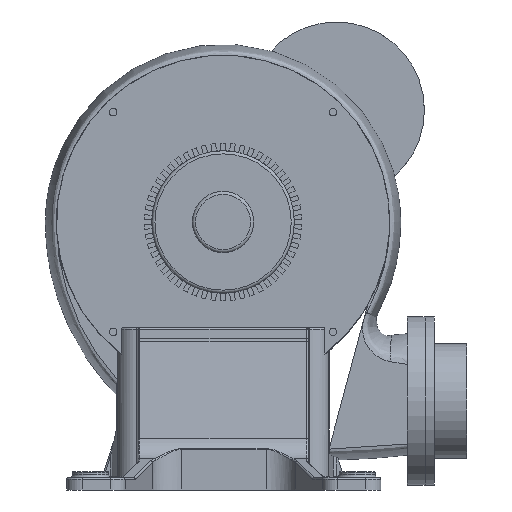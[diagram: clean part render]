
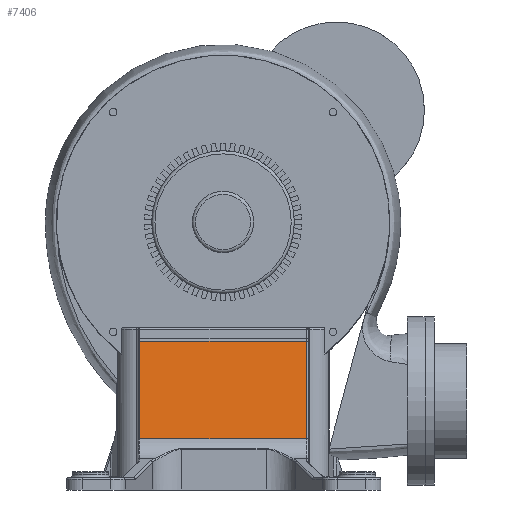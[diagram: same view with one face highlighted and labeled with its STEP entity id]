
A CAD part, left-side view. The second image highlights one B-rep face of the part: STEP entity #7406.
In plain terms, the highlighted planar face has unit normal (-0.99, 0, 0.138).
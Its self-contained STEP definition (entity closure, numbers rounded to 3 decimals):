
#708=LINE('',#16049,#1359);
#710=LINE('',#16073,#1361);
#711=LINE('',#16075,#1362);
#712=LINE('',#16077,#1363);
#1359=VECTOR('',#9819,1000.);
#1361=VECTOR('',#9825,1000.);
#1362=VECTOR('',#9826,1000.);
#1363=VECTOR('',#9827,1000.);
#3146=ORIENTED_EDGE('',*,*,#4560,.F.);
#3147=ORIENTED_EDGE('',*,*,#4565,.T.);
#3148=ORIENTED_EDGE('',*,*,#4566,.T.);
#3149=ORIENTED_EDGE('',*,*,#4567,.T.);
#4560=EDGE_CURVE('',#5400,#5401,#708,.T.);
#4565=EDGE_CURVE('',#5400,#5404,#710,.F.);
#4566=EDGE_CURVE('',#5404,#5405,#711,.T.);
#4567=EDGE_CURVE('',#5405,#5401,#712,.T.);
#5400=VERTEX_POINT('',#16048);
#5401=VERTEX_POINT('',#16050);
#5404=VERTEX_POINT('',#16074);
#5405=VERTEX_POINT('',#16076);
#6192=EDGE_LOOP('',(#3146,#3147,#3148,#3149));
#6694=FACE_BOUND('',#6192,.T.);
#7094=PLANE('',#8030);
#7406=ADVANCED_FACE('',(#6694),#7094,.T.);
#8030=AXIS2_PLACEMENT_3D('',#16072,#9823,#9824);
#9819=DIRECTION('',(0.,1.,0.));
#9823=DIRECTION('',(-0.99,0.,0.138));
#9824=DIRECTION('',(0.138,0.,0.99));
#9825=DIRECTION('',(-0.138,0.,-0.99));
#9826=DIRECTION('',(0.,1.,0.));
#9827=DIRECTION('',(-0.138,0.,-0.99));
#16048=CARTESIAN_POINT('',(-78.765,-54.5,-141.503));
#16049=CARTESIAN_POINT('',(-78.765,-87.5,-141.503));
#16050=CARTESIAN_POINT('',(-78.765,54.5,-141.503));
#16072=CARTESIAN_POINT('',(-78.765,-87.5,-141.503));
#16073=CARTESIAN_POINT('',(-69.872,-54.5,-77.797));
#16074=CARTESIAN_POINT('',(-69.872,-54.5,-77.797));
#16075=CARTESIAN_POINT('',(-69.872,-87.5,-77.797));
#16076=CARTESIAN_POINT('',(-69.872,54.5,-77.797));
#16077=CARTESIAN_POINT('',(-78.765,54.5,-141.503));
